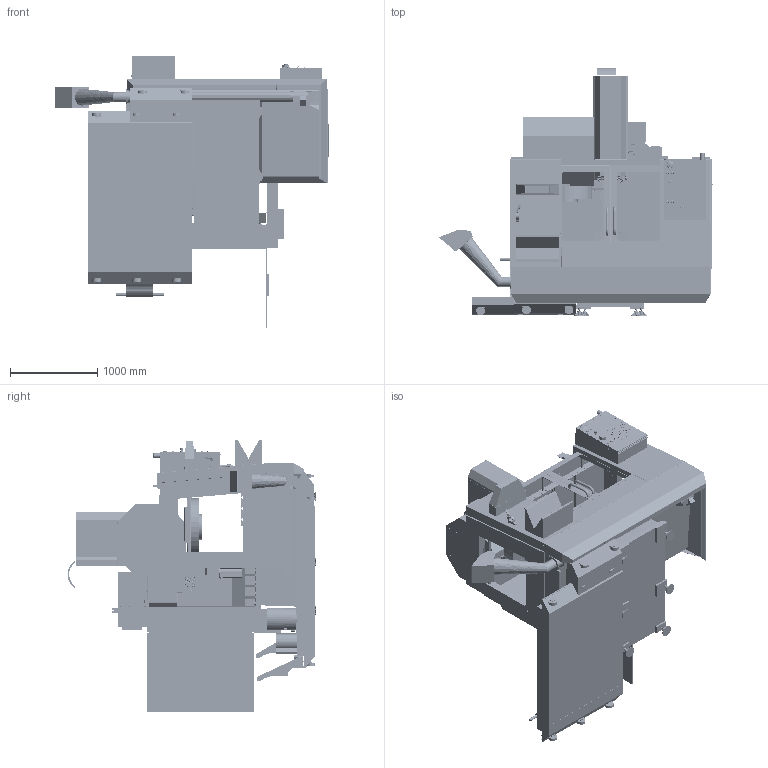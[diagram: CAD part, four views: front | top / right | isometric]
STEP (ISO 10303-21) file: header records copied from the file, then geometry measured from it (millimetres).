
FILE_DESCRIPTION (( 'STEP AP214' ), '1' );
FILE_NAME ('VF-1_STEP_11_2021.STEP', '2021-11-08T16:49:09', ( '' ), ( '' ), 'SwSTEP 2.0', 'SolidWorks 2021', '' );
FILE_SCHEMA (( 'AUTOMOTIVE_DESIGN' ));
Length unit declared in the file: inch
Products named in the file (48): Enclosure_VF-1_11_2021; 58-3105_DF_2; Chip_Auger_VF-1; Defualt_defeature^37-0282_DF_2; 75-7616_DF_2; 58-3003_DF_2; Default_defeature^37-0299_DF_2; 37-0282_DF_2(Defualt_defeature); Castings_VF-1_11_2021(Default_defeature); 70-0009_DF_2(Default); 55-Gal Coolant Tank_VF-1_11_2021; 37-0362_DF_2(SML VF INLINE); 33-0219A_DF_2; 37-0299_DF_2(Default_defeature); Default_defeature^10000005212; Table_VF-1_11_2021; 75-15718_DF_2; 58-3601_DF_2; SML VF CLP_defeature^37-0053_DF_2; Default_defeature^Castings_VF-1_11_2021; 37-2104_VF-1_DF_UMB_1; 20-4570_DF_2; Default_defeature^32-0042A_DF_2; Spindle Head_VF-1_11_2021; 95-Gal Coolant Tank_VF-1_11_2021; 58-3087_DF_2; 32-0042A_DF_2(Default_defeature); VF-1_STEP_11_2021; 59-0597_DF_2; 37-0295_DF_2(VF 1_defeature); Saddle_VF-1_11_2021; 58-0326_DF_2; 10000057196_Pendant_Common(32-6042 FRONT PANEL ASSY MILL SST FREE HANG_defeature); 37-0356_DF_2; 58-0336_DF_2; VF 1_defeature^37-0295_DF_2; 33-0219A_02_DF_2; SMTC_30_PCKT_Option_VF-1_11_2021; CONV_PCKG_VF-1; 58-1349_DF_2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
Assembly tree (57 placements, depth 5):
  VF-1_STEP_11_2021
    Enclosure_VF-1_11_2021
      32-0042A_DF_2(Default_defeature)
        Default_defeature^32-0042A_DF_2
      10000057196_Pendant_Common(32-6042 FRONT PANEL ASSY MILL SST FREE HANG_defeature)
        32-6042 FRONT PANEL ASSY MILL SST FREE HANG_defeature^10000057196_Pendant_Common
      CONV_PCKG_VF-1
      Enclosure_VF-1_11_2021
    Castings_VF-1_11_2021(Default_defeature)
      Default_defeature^Castings_VF-1_11_2021
    Spindle Head_VF-1_11_2021
      37-0362_DF_2(SML VF INLINE)
        30-4533_DF_2(Default)
          20-4570_DF_2
          58-3601_DF_2
          59-0597_DF_2  x3
          58-0326_DF_2
          58-3003_DF_2
          58-3087_DF_2
          58-0336_DF_2  x2
          58-3105_DF_2
        58-3105_DF_2
        40-1695_DF_2  x2
        58-1349_DF_2
        70-0009_DF_2(Default)
      37-0356_DF_2
        33-0219A_DF_2
          75-7616_DF_2
          75-15718_DF_2
          33-0219A_02_DF_2
      37-0282_DF_2(Defualt_defeature)
        Defualt_defeature^37-0282_DF_2
    Table_VF-1_11_2021
      37-0299_DF_2(Default_defeature)
        Default_defeature^37-0299_DF_2
    Saddle_VF-1_11_2021
      37-0295_DF_2(VF 1_defeature)
        VF 1_defeature^37-0295_DF_2
    UMB_20_PCKT_Option_VF-1_11_2021
      37-2104_VF-1_DF_UMB_1
    SMTC_30_PCKT_Option_VF-1_11_2021
      37-3445_DF_OB
    Pads_VF-1_10_2021
      Pads  x6
    95-Gal Coolant Tank_VF-1_11_2021
      Default_defeature^10000005212
    55-Gal Coolant Tank_VF-1_11_2021
      SML VF CLP_defeature^37-0053_DF_2
    Chip_Auger_VF-1
Bounding box: 3135.9 x 2845.52 x 3121.68 mm (x, y, z)
Volume: 3356257237.1 mm3; surface area: 96605382.8 mm2
Topology: 138 solids, 201 shells, 18937 faces, 49166 edges, 31032 vertices
Faces by surface type: plane 10800, cylinder 4790, cone 1588, bspline 1256, torus 358, sphere 145
Entity records: 602257 total; most frequent: CARTESIAN_POINT 139792, ORIENTED_EDGE 90172, DIRECTION 84995, EDGE_CURVE 45086, VECTOR 30249, LINE 30249, VERTEX_POINT 28799, AXIS2_PLACEMENT_3D 27373
